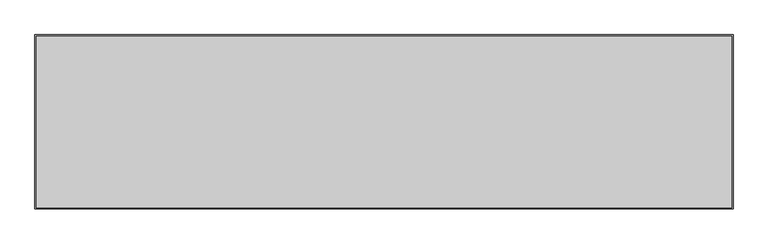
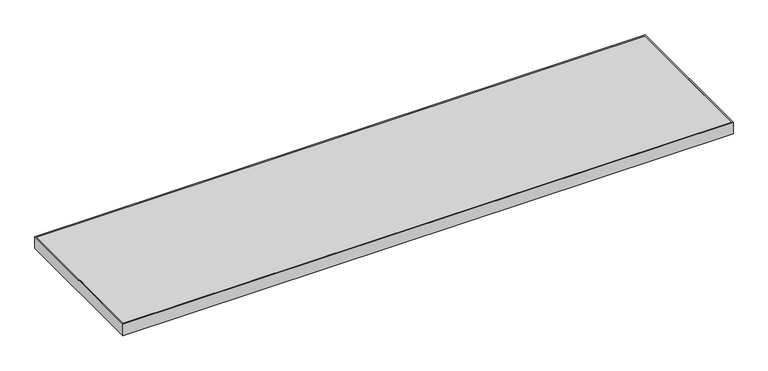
"""IFC4 building model written with IfcOpenShell, lengths in millimetres: furniture geometry, Steelcase - Universal Storage - Square Edge Top - Flush Front - Laminate : Common Top - 15D x 60W."""

from ifc_helpers import new_model, si_unit, frame, origin, place, context, project, spatial, polyline, outline, extrude, source, transform, mapped, element, save


def furniture_f3108706(model_context):
    return source(origin(), model_context, "Body", "SweptSolid", [
        extrude(outline(polyline([(1520.9520001, -3.0479999), (1520.9520001, -377.9520001), (3.0479999, -377.9520001), (3.0479999, -3.0479999), (1520.9520001, -3.0479999)])), frame((0.0, 0.0, 680.72), z_axis=(0.0, 0.0, 1.0), x_axis=(1.0, 0.0, 0.0)), (0.0, 0.0, 1.0), 30.48),
        extrude(outline(polyline([(1524.0, 0.0), (1524.0, -381.0), (0.0, -381.0), (0.0, 0.0), (1524.0, 0.0)]), holes=[polyline([(1520.9520001, -3.0479999), (3.0479999, -3.0479999), (3.0479999, -377.9520001), (1520.9520001, -377.9520001), (1520.9520001, -3.0479999)])]), frame((0.0, 0.0, 680.72), z_axis=(0.0, 0.0, 1.0), x_axis=(1.0, 0.0, 0.0)), (0.0, 0.0, 1.0), 30.48),
    ])


if __name__ == "__main__":
    model = new_model("IFC4")
    model_context = context("Model", 3, world=origin())
    ifc_project = project(units=[si_unit("LENGTHUNIT", "METRE", prefix="MILLI")], contexts=[model_context])
    site = spatial("IfcSite", under=ifc_project)
    building = spatial("IfcBuilding", under=site)
    placement = place(None, origin())
    furniture_shape = furniture_f3108706(model_context)
    element("IfcFurniture", 1, ObjectType="Steelcase - Universal Storage - Square Edge Top - Flush Front - Laminate : Common Top - 15D x 60W", at=placement, inside=building, context=model_context, shape_type="MappedRepresentation", body=[
        mapped(furniture_shape, transform((0.0, 0.0, 0.0), x_axis=(1.0, 0.0, 0.0), y_axis=(0.0, 1.0, 0.0), z_axis=(0.0, 0.0, 1.0))),
    ])
    save(model, "model.ifc")
